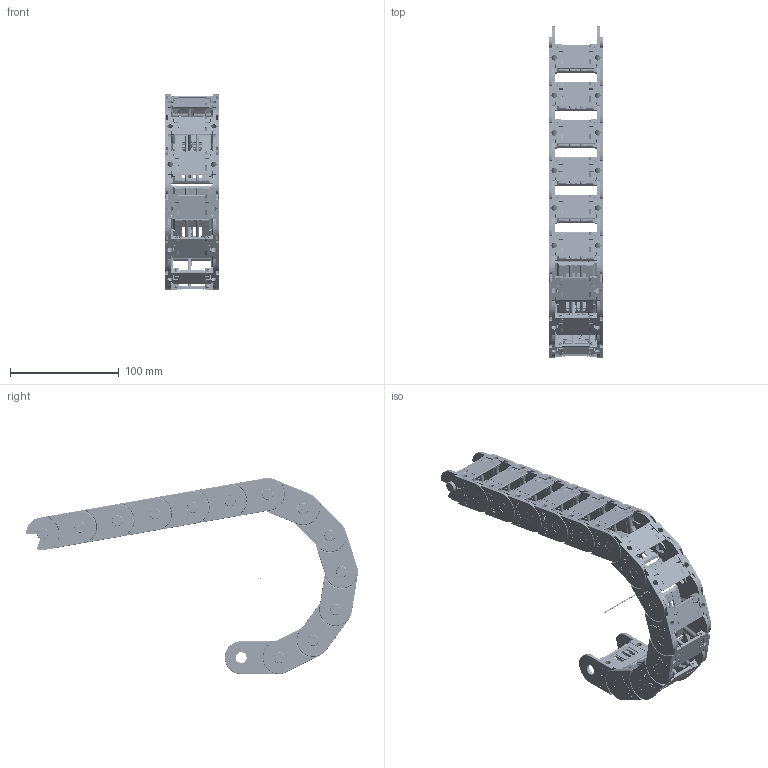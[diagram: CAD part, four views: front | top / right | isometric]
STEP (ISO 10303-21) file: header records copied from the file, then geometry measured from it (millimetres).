
FILE_DESCRIPTION((''),'2;1');
FILE_NAME('C:\Uebbing\PARAMETERKETTEN\KOLIBRI\Kol_30_050_1\KOLIBRI 30_050_1_R75.stp','2012-03-05T08:16:16',('Uebbing'),(''),'Autodesk Inventor 10','Autodesk Inventor 10','');
FILE_SCHEMA(('AUTOMOTIVE_DESIGN { 1 0 10303 214 1 1 1 1 }'));
Length unit declared in the file: millimetre
Products named in the file (6): KOLIBRI 30_050_1_PARAMETRISCH; Achse; Kol_30_050_1; PZ 30 Stecksteg; Kol 30_050_1 Lasche; Kol 30_050_0 Klappsteg
Assembly tree (17 placements, depth 3):
  KOLIBRI 30_050_1_PARAMETRISCH
    Achse
    Kol_30_050_1  x13
      PZ 30 Stecksteg
      Kol 30_050_1 Lasche
      Kol 30_050_0 Klappsteg
Bounding box: 50 x 304.78 x 180 mm (x, y, z)
Volume: 192194.5 mm3; surface area: 194848.2 mm2
Topology: 40 solids, 40 shells, 12418 faces, 33934 edges, 22233 vertices
Faces by surface type: plane 6255, bspline 2990, cylinder 2458, torus 559, cone 104, sphere 52
Full cylindrical faces by diameter (mm): 1 x1, 1.166 x13, 2.048 x13, 2.8 x104, 5.1 x26, 10 x13, 10.1 x26
Entity records: 33098 total; most frequent: CARTESIAN_POINT 9822, ORIENTED_EDGE 5142, DIRECTION 4196, EDGE_CURVE 2571, VERTEX_POINT 1699, VECTOR 1612, LINE 1612, AXIS2_PLACEMENT_3D 1292
